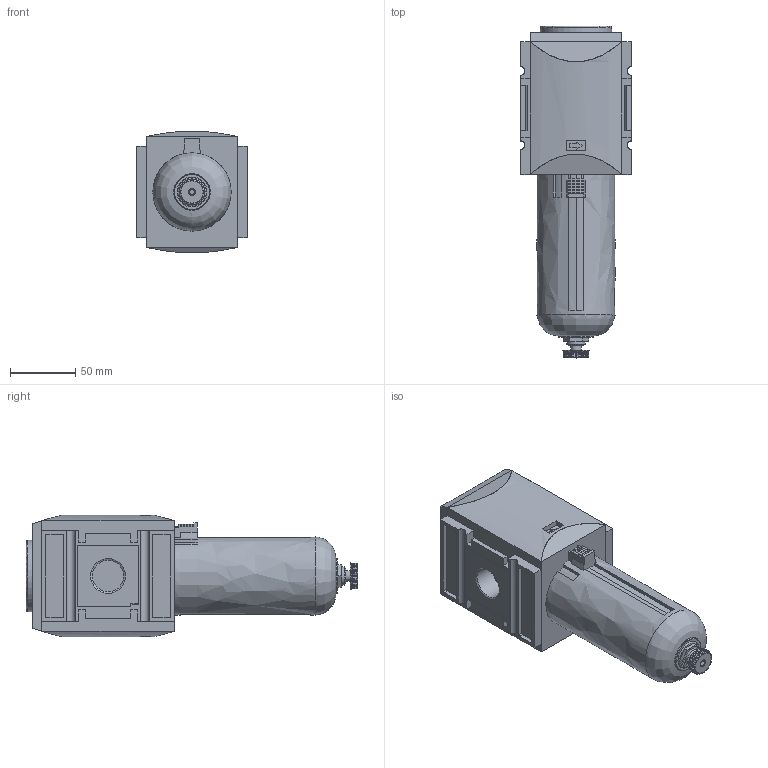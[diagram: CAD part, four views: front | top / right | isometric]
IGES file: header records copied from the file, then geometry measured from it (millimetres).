
Start section: Data from Parasolid IGES Translator 17.0.49, Copyright(c) 2006 Siemens P LM Software. All Rights Reserved.
Global section: file name: FU 6150.igs; native system: By Siemens PLM Incorporated; preprocessor: XPlus GENERIC/IGES 17.0.49; author: Noname; organization: Noname; date: 20170112.143750; units: millimetre
Bounding box: 85 x 255 x 93.28 mm (x, y, z)
Surface area: 94957.5 mm2 (no closed solid volume)
Topology: 0 solids, 0 shells, 429 faces, 2296 edges, 2255 vertices
Faces by surface type: extrusion 233, revolution 196
